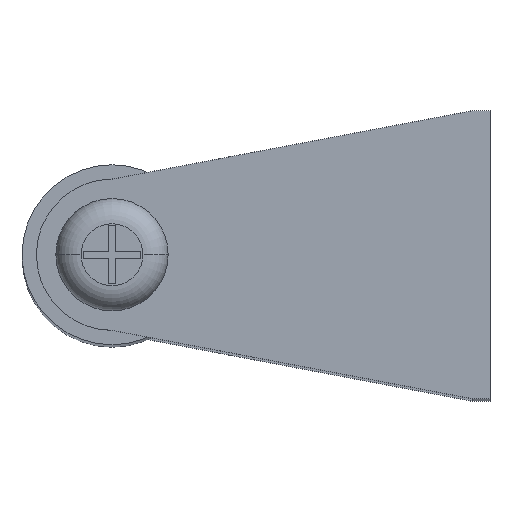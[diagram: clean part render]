
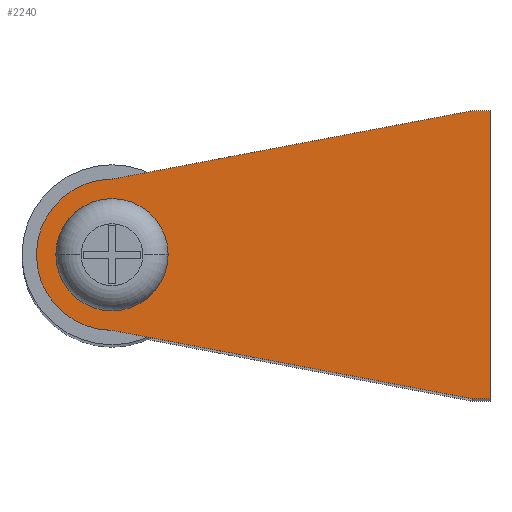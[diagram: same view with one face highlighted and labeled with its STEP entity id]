
A CAD part, top view. The second image highlights one B-rep face of the part: STEP entity #2240.
In plain terms, the highlighted planar face has unit normal (0, 0, 1) as drawn and (1, 0, 0) by its records, which use the part's own axes.
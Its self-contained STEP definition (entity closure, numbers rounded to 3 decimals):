
#11 = LINE ( 'NONE', #1916, #1967 ) ;
#89 = ORIENTED_EDGE ( 'NONE', *, *, #1460, .T. ) ;
#118 = CARTESIAN_POINT ( 'NONE',  ( 14., 20., 0. ) ) ;
#154 = CARTESIAN_POINT ( 'NONE',  ( 14., 20., 0. ) ) ;
#189 = EDGE_CURVE ( 'NONE', #2265, #1744, #1088, .T. ) ;
#220 = DIRECTION ( 'NONE',  ( 1., 0., 0. ) ) ;
#226 = DIRECTION ( 'NONE',  ( 0., 0., -1. ) ) ;
#262 = DIRECTION ( 'NONE',  ( 0., 1., 0. ) ) ;
#373 = CARTESIAN_POINT ( 'NONE',  ( 14., -10.5, -50. ) ) ;
#433 = VERTEX_POINT ( 'NONE', #1005 ) ;
#445 = CARTESIAN_POINT ( 'NONE',  ( 14., 20., 2.5 ) ) ;
#457 = FACE_BOUND ( 'NONE', #1182, .T. ) ;
#523 = AXIS2_PLACEMENT_3D ( 'NONE', #1557, #220, #1919 ) ;
#535 = VECTOR ( 'NONE', #1755, 1000. ) ;
#554 = EDGE_CURVE ( 'NONE', #1716, #1744, #1370, .T. ) ;
#559 = VECTOR ( 'NONE', #262, 1000. ) ;
#582 = EDGE_CURVE ( 'NONE', #2097, #2265, #846, .T. ) ;
#590 = LINE ( 'NONE', #1326, #1214 ) ;
#641 = CARTESIAN_POINT ( 'NONE',  ( 14., -20., 0. ) ) ;
#669 = ORIENTED_EDGE ( 'NONE', *, *, #582, .T. ) ;
#699 = VECTOR ( 'NONE', #2392, 1000. ) ;
#727 = EDGE_CURVE ( 'NONE', #999, #433, #959, .T. ) ;
#846 = CIRCLE ( 'NONE', #2181, 10.5 ) ;
#959 = CIRCLE ( 'NONE', #2323, 3. ) ;
#968 = ORIENTED_EDGE ( 'NONE', *, *, #1029, .F. ) ;
#999 = VERTEX_POINT ( 'NONE', #2270 ) ;
#1005 = CARTESIAN_POINT ( 'NONE',  ( 14., -3., -50. ) ) ;
#1029 = EDGE_CURVE ( 'NONE', #433, #999, #1975, .T. ) ;
#1035 = DIRECTION ( 'NONE',  ( 0., -1., 0. ) ) ;
#1088 = LINE ( 'NONE', #154, #699 ) ;
#1121 = CARTESIAN_POINT ( 'NONE',  ( 14., -20., 2.5 ) ) ;
#1125 = VERTEX_POINT ( 'NONE', #641 ) ;
#1182 = EDGE_LOOP ( 'NONE', ( #1318, #968 ) ) ;
#1194 = ORIENTED_EDGE ( 'NONE', *, *, #554, .F. ) ;
#1214 = VECTOR ( 'NONE', #2300, 1000. ) ;
#1227 = CARTESIAN_POINT ( 'NONE',  ( 14., 20., 2.5 ) ) ;
#1235 = DIRECTION ( 'NONE',  ( 0., 1., 0. ) ) ;
#1253 = ORIENTED_EDGE ( 'NONE', *, *, #189, .T. ) ;
#1318 = ORIENTED_EDGE ( 'NONE', *, *, #727, .F. ) ;
#1326 = CARTESIAN_POINT ( 'NONE',  ( 14., -20., 0. ) ) ;
#1370 = LINE ( 'NONE', #445, #535 ) ;
#1377 = LINE ( 'NONE', #1951, #559 ) ;
#1394 = DIRECTION ( 'NONE',  ( 1., 0., 0. ) ) ;
#1430 = CARTESIAN_POINT ( 'NONE',  ( 14., 0., -50. ) ) ;
#1460 = EDGE_CURVE ( 'NONE', #2132, #1125, #11, .T. ) ;
#1538 = EDGE_LOOP ( 'NONE', ( #89, #1977, #669, #1253, #1194, #1819 ) ) ;
#1557 = CARTESIAN_POINT ( 'NONE',  ( 14., 0., -50. ) ) ;
#1600 = EDGE_CURVE ( 'NONE', #1125, #2097, #590, .T. ) ;
#1716 = VERTEX_POINT ( 'NONE', #2313 ) ;
#1744 = VERTEX_POINT ( 'NONE', #118 ) ;
#1755 = DIRECTION ( 'NONE',  ( 0., 0., -1. ) ) ;
#1779 = EDGE_CURVE ( 'NONE', #2132, #1716, #1377, .T. ) ;
#1819 = ORIENTED_EDGE ( 'NONE', *, *, #1779, .F. ) ;
#1916 = CARTESIAN_POINT ( 'NONE',  ( 14., -20., 2.5 ) ) ;
#1919 = DIRECTION ( 'NONE',  ( 0., 1., 0. ) ) ;
#1951 = CARTESIAN_POINT ( 'NONE',  ( 14., 20., 2.5 ) ) ;
#1967 = VECTOR ( 'NONE', #226, 1000. ) ;
#1968 = DIRECTION ( 'NONE',  ( 0., 1., 0. ) ) ;
#1975 = CIRCLE ( 'NONE', #523, 3. ) ;
#1977 = ORIENTED_EDGE ( 'NONE', *, *, #1600, .T. ) ;
#2005 = CARTESIAN_POINT ( 'NONE',  ( 14., 0., -50. ) ) ;
#2097 = VERTEX_POINT ( 'NONE', #373 ) ;
#2132 = VERTEX_POINT ( 'NONE', #1121 ) ;
#2157 = PLANE ( 'NONE',  #2231 ) ;
#2167 = CARTESIAN_POINT ( 'NONE',  ( 14., 10.5, -50. ) ) ;
#2181 = AXIS2_PLACEMENT_3D ( 'NONE', #2005, #1394, #1235 ) ;
#2189 = DIRECTION ( 'NONE',  ( 1., 0., 0. ) ) ;
#2231 = AXIS2_PLACEMENT_3D ( 'NONE', #1227, #2342, #1035 ) ;
#2240 = ADVANCED_FACE ( 'NONE', ( #2332, #457 ), #2157, .F. ) ;
#2265 = VERTEX_POINT ( 'NONE', #2167 ) ;
#2270 = CARTESIAN_POINT ( 'NONE',  ( 14., 3., -50. ) ) ;
#2300 = DIRECTION ( 'NONE',  ( 0., 0.187, -0.982 ) ) ;
#2313 = CARTESIAN_POINT ( 'NONE',  ( 14., 20., 2.5 ) ) ;
#2323 = AXIS2_PLACEMENT_3D ( 'NONE', #1430, #2189, #1968 ) ;
#2332 = FACE_OUTER_BOUND ( 'NONE', #1538, .T. ) ;
#2342 = DIRECTION ( 'NONE',  ( -1., 0., 0. ) ) ;
#2392 = DIRECTION ( 'NONE',  ( 0., 0.187, 0.982 ) ) ;
